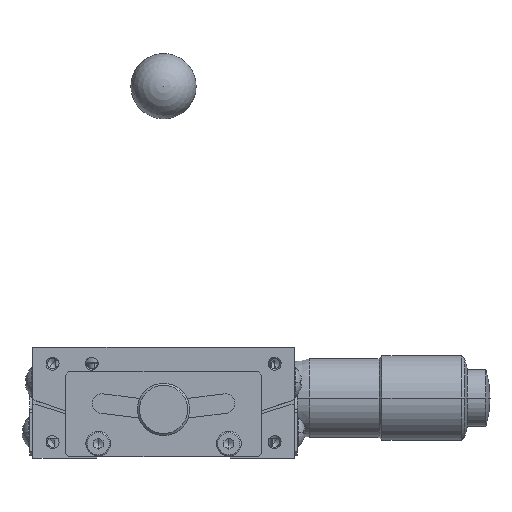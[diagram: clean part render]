
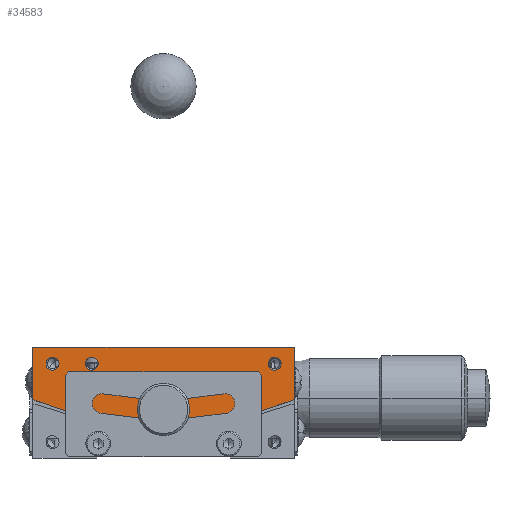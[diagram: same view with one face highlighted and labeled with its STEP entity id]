
A CAD part, front view. The second image highlights one B-rep face of the part: STEP entity #34583.
In plain terms, the highlighted planar face has unit normal (0, -1, 0) as drawn and (-1, 0, 0) by its records, which use the part's own axes.
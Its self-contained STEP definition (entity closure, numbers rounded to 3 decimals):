
#7442 = CARTESIAN_POINT ( 'NONE',  ( -20., 16.375, -1.719 ) ) ;
#7546 = CARTESIAN_POINT ( 'NONE',  ( -20., 17.625, -3.281 ) ) ;
#7547 = DIRECTION ( 'NONE',  ( 0., 0.625, -0.781 ) ) ;
#7548 = DIRECTION ( 'NONE',  ( -1., 0., 0. ) ) ;
#7549 = CARTESIAN_POINT ( 'NONE',  ( -20., 17., -2.5 ) ) ;
#7550 = AXIS2_PLACEMENT_3D ( 'NONE', #7549, #7548, #7547 ) ;
#7551 = CIRCLE ( 'NONE', #7550, 1. ) ;
#7706 = CARTESIAN_POINT ( 'NONE',  ( -20., 10., -2.5 ) ) ;
#7707 = DIRECTION ( 'NONE',  ( 0., -1., 0. ) ) ;
#7708 = DIRECTION ( 'NONE',  ( -1., 0., 0. ) ) ;
#7709 = CARTESIAN_POINT ( 'NONE',  ( -20., 11., -2.5 ) ) ;
#7710 = AXIS2_PLACEMENT_3D ( 'NONE', #7709, #7708, #7707 ) ;
#7711 = CIRCLE ( 'NONE', #7710, 1. ) ;
#7712 = CARTESIAN_POINT ( 'NONE',  ( -20., 12., -2.5 ) ) ;
#7718 = CARTESIAN_POINT ( 'NONE',  ( -20., -17.305, -3.452 ) ) ;
#7719 = DIRECTION ( 'NONE',  ( 0., -0.305, -0.952 ) ) ;
#7720 = DIRECTION ( 'NONE',  ( -1., 0., 0. ) ) ;
#7721 = CARTESIAN_POINT ( 'NONE',  ( -20., -17., -2.5 ) ) ;
#7722 = AXIS2_PLACEMENT_3D ( 'NONE', #7721, #7720, #7719 ) ;
#7723 = CIRCLE ( 'NONE', #7722, 1. ) ;
#7724 = CARTESIAN_POINT ( 'NONE',  ( -20., -16.695, -1.548 ) ) ;
#10055 = CARTESIAN_POINT ( 'NONE',  ( -20., 3., -9.5 ) ) ;
#10110 = CARTESIAN_POINT ( 'NONE',  ( -20., 1.699, -11.972 ) ) ;
#10111 = DIRECTION ( 'NONE',  ( 0., 1., 0. ) ) ;
#10112 = DIRECTION ( 'NONE',  ( -1., 0., 0. ) ) ;
#10113 = CARTESIAN_POINT ( 'NONE',  ( -20., 0., -9.5 ) ) ;
#10114 = AXIS2_PLACEMENT_3D ( 'NONE', #10113, #10112, #10111 ) ;
#10115 = CIRCLE ( 'NONE', #10114, 3. ) ;
#10133 = CARTESIAN_POINT ( 'NONE',  ( -20., -3., -9.5 ) ) ;
#10134 = CARTESIAN_POINT ( 'NONE',  ( -20., -1.699, -11.972 ) ) ;
#10135 = DIRECTION ( 'NONE',  ( 0., 1., 0. ) ) ;
#10136 = DIRECTION ( 'NONE',  ( -1., 0., 0. ) ) ;
#10137 = CARTESIAN_POINT ( 'NONE',  ( -20., 0., -9.5 ) ) ;
#10138 = AXIS2_PLACEMENT_3D ( 'NONE', #10137, #10136, #10135 ) ;
#10144 = CIRCLE ( 'NONE', #10138, 3. ) ;
#10504 = DIRECTION ( 'NONE',  ( 0., 1., 0. ) ) ;
#10505 = DIRECTION ( 'NONE',  ( -1., 0., 0. ) ) ;
#10506 = CARTESIAN_POINT ( 'NONE',  ( -20., 0., -9.5 ) ) ;
#10507 = AXIS2_PLACEMENT_3D ( 'NONE', #10506, #10505, #10504 ) ;
#10511 = CIRCLE ( 'NONE', #10507, 3. ) ;
#20984 = VERTEX_POINT ( 'NONE', #7442 ) ;
#21044 = EDGE_CURVE ( 'NONE', #20984, #21045, #7551, .T. ) ;
#21045 = VERTEX_POINT ( 'NONE', #7546 ) ;
#21187 = VERTEX_POINT ( 'NONE', #7724 ) ;
#21189 = EDGE_CURVE ( 'NONE', #21187, #21190, #7723, .T. ) ;
#21190 = VERTEX_POINT ( 'NONE', #7718 ) ;
#21197 = VERTEX_POINT ( 'NONE', #7712 ) ;
#21200 = EDGE_CURVE ( 'NONE', #21197, #21202, #7711, .T. ) ;
#21202 = VERTEX_POINT ( 'NONE', #7706 ) ;
#22966 = VERTEX_POINT ( 'NONE', #10055 ) ;
#22969 = EDGE_CURVE ( 'NONE', #22966, #22970, #10115, .T. ) ;
#22970 = VERTEX_POINT ( 'NONE', #10110 ) ;
#22999 = EDGE_CURVE ( 'NONE', #23001, #23004, #10144, .T. ) ;
#23001 = VERTEX_POINT ( 'NONE', #10134 ) ;
#23004 = VERTEX_POINT ( 'NONE', #10133 ) ;
#23384 = EDGE_CURVE ( 'NONE', #23004, #22966, #10511, .T. ) ;
#27671 = DIRECTION ( 'NONE',  ( 0., -1., 0. ) ) ;
#27673 = CARTESIAN_POINT ( 'NONE',  ( -20., 20., 0. ) ) ;
#27676 = DIRECTION ( 'NONE',  ( 0., 0., 1. ) ) ;
#27677 = VECTOR ( 'NONE', #27676, 1000. ) ;
#27679 = CARTESIAN_POINT ( 'NONE',  ( -20., 20., -8. ) ) ;
#27681 = LINE ( 'NONE', #27679, #27677 ) ;
#27687 = CARTESIAN_POINT ( 'NONE',  ( -20., 20., -8. ) ) ;
#27923 = CARTESIAN_POINT ( 'NONE',  ( -20., -20., 0. ) ) ;
#27924 = DIRECTION ( 'NONE',  ( 0., -1., 0. ) ) ;
#27926 = VECTOR ( 'NONE', #27924, 1000. ) ;
#27928 = CARTESIAN_POINT ( 'NONE',  ( -20., 20., 0. ) ) ;
#27930 = LINE ( 'NONE', #27928, #27926 ) ;
#28157 = CARTESIAN_POINT ( 'NONE',  ( -20., -20., -8. ) ) ;
#28160 = DIRECTION ( 'NONE',  ( 0., 0., -1. ) ) ;
#28161 = VECTOR ( 'NONE', #28160, 1000. ) ;
#28163 = CARTESIAN_POINT ( 'NONE',  ( -20., -20., 0. ) ) ;
#28164 = LINE ( 'NONE', #28163, #28161 ) ;
#28207 = DIRECTION ( 'NONE',  ( 0., -0.305, -0.952 ) ) ;
#28209 = DIRECTION ( 'NONE',  ( -1., 0., 0. ) ) ;
#28211 = CARTESIAN_POINT ( 'NONE',  ( -20., -17., -2.5 ) ) ;
#28212 = AXIS2_PLACEMENT_3D ( 'NONE', #28211, #28209, #28207 ) ;
#28214 = CIRCLE ( 'NONE', #28212, 1. ) ;
#28245 = DIRECTION ( 'NONE',  ( -1., 0., 0. ) ) ;
#28247 = AXIS2_PLACEMENT_3D ( 'NONE', #28261, #28245, #27671 ) ;
#28248 = CIRCLE ( 'NONE', #28247, 1. ) ;
#28261 = CARTESIAN_POINT ( 'NONE',  ( -20., 11., -2.5 ) ) ;
#28338 = DIRECTION ( 'NONE',  ( 0., 0.625, -0.781 ) ) ;
#28340 = DIRECTION ( 'NONE',  ( -1., 0., 0. ) ) ;
#28342 = AXIS2_PLACEMENT_3D ( 'NONE', #28354, #28340, #28338 ) ;
#28344 = CIRCLE ( 'NONE', #28342, 1. ) ;
#28354 = CARTESIAN_POINT ( 'NONE',  ( -20., 17., -2.5 ) ) ;
#28371 = DIRECTION ( 'NONE',  ( 0., -1., 0. ) ) ;
#28373 = DIRECTION ( 'NONE',  ( 1., 0., 0. ) ) ;
#28374 = CARTESIAN_POINT ( 'NONE',  ( -20., 0., 40. ) ) ;
#28376 = AXIS2_PLACEMENT_3D ( 'NONE', #28374, #28373, #28371 ) ;
#28380 = PLANE ( 'NONE',  #28376 ) ;
#28382 = FACE_OUTER_BOUND ( 'NONE', #34673, .T. ) ;
#28385 = FACE_BOUND ( 'NONE', #34609, .T. ) ;
#28387 = FACE_BOUND ( 'NONE', #34601, .T. ) ;
#28389 = FACE_BOUND ( 'NONE', #34587, .T. ) ;
#28491 = DIRECTION ( 'NONE',  ( 0., -1., 0. ) ) ;
#28493 = DIRECTION ( 'NONE',  ( 1., 0., 0. ) ) ;
#28495 = CARTESIAN_POINT ( 'NONE',  ( -20., 0., 40. ) ) ;
#28496 = AXIS2_PLACEMENT_3D ( 'NONE', #28495, #28493, #28491 ) ;
#28509 = CIRCLE ( 'NONE', #28496, 52. ) ;
#28518 = DIRECTION ( 'NONE',  ( 0., -1., 0. ) ) ;
#28520 = DIRECTION ( 'NONE',  ( 1., 0., 0. ) ) ;
#28522 = AXIS2_PLACEMENT_3D ( 'NONE', #28533, #28520, #28518 ) ;
#28524 = CIRCLE ( 'NONE', #28522, 52. ) ;
#28533 = CARTESIAN_POINT ( 'NONE',  ( -20., 0., 40. ) ) ;
#34175 = VERTEX_POINT ( 'NONE', #27687 ) ;
#34181 = EDGE_CURVE ( 'NONE', #34175, #34183, #27681, .T. ) ;
#34183 = VERTEX_POINT ( 'NONE', #27673 ) ;
#34337 = EDGE_CURVE ( 'NONE', #34183, #34342, #27930, .T. ) ;
#34342 = VERTEX_POINT ( 'NONE', #27923 ) ;
#34445 = EDGE_CURVE ( 'NONE', #34342, #34447, #28164, .T. ) ;
#34447 = VERTEX_POINT ( 'NONE', #28157 ) ;
#34507 = EDGE_CURVE ( 'NONE', #21190, #21187, #28214, .T. ) ;
#34581 = EDGE_CURVE ( 'NONE', #21202, #21197, #28248, .T. ) ;
#34583 = ADVANCED_FACE ( 'NONE', ( #28389, #28387, #28385, #28382 ), #28380, .F. ) ;
#34587 = EDGE_LOOP ( 'NONE', ( #34591, #34597 ) ) ;
#34591 = ORIENTED_EDGE ( 'NONE', *, *, #34581, .F. ) ;
#34597 = ORIENTED_EDGE ( 'NONE', *, *, #21200, .F. ) ;
#34601 = EDGE_LOOP ( 'NONE', ( #34603, #34606 ) ) ;
#34603 = ORIENTED_EDGE ( 'NONE', *, *, #34507, .F. ) ;
#34606 = ORIENTED_EDGE ( 'NONE', *, *, #21189, .F. ) ;
#34609 = EDGE_LOOP ( 'NONE', ( #34666, #34672 ) ) ;
#34618 = EDGE_CURVE ( 'NONE', #21045, #20984, #28344, .T. ) ;
#34666 = ORIENTED_EDGE ( 'NONE', *, *, #34618, .F. ) ;
#34672 = ORIENTED_EDGE ( 'NONE', *, *, #21044, .F. ) ;
#34673 = EDGE_LOOP ( 'NONE', ( #34677, #34682, #34685, #34687, #34694, #34697, #34761, #34763 ) ) ;
#34677 = ORIENTED_EDGE ( 'NONE', *, *, #22999, .F. ) ;
#34682 = ORIENTED_EDGE ( 'NONE', *, *, #34684, .F. ) ;
#34684 = EDGE_CURVE ( 'NONE', #34447, #23001, #28524, .T. ) ;
#34685 = ORIENTED_EDGE ( 'NONE', *, *, #34445, .F. ) ;
#34687 = ORIENTED_EDGE ( 'NONE', *, *, #34337, .F. ) ;
#34694 = ORIENTED_EDGE ( 'NONE', *, *, #34181, .F. ) ;
#34697 = ORIENTED_EDGE ( 'NONE', *, *, #34699, .F. ) ;
#34699 = EDGE_CURVE ( 'NONE', #22970, #34175, #28509, .T. ) ;
#34761 = ORIENTED_EDGE ( 'NONE', *, *, #22969, .F. ) ;
#34763 = ORIENTED_EDGE ( 'NONE', *, *, #23384, .F. ) ;
